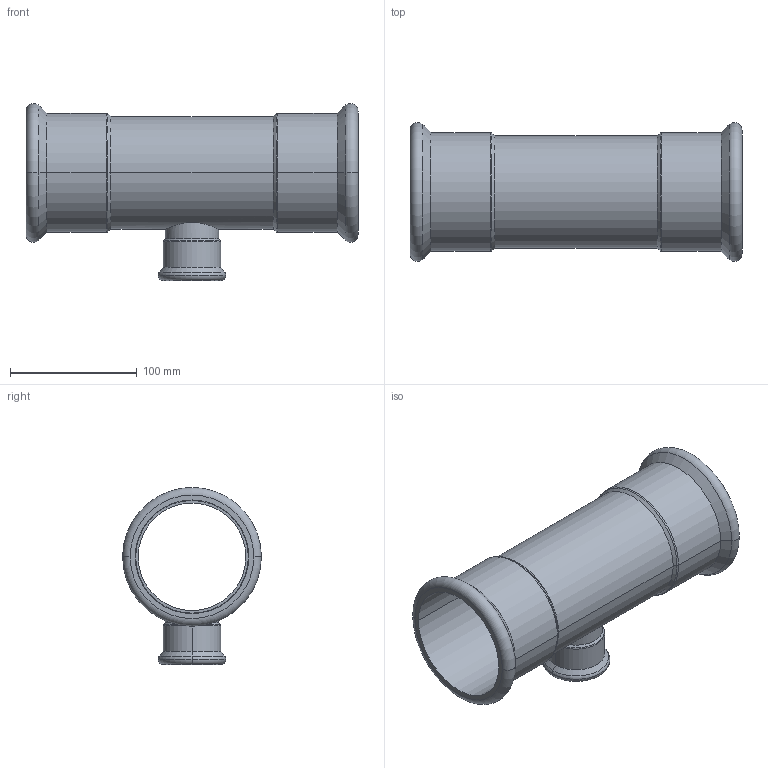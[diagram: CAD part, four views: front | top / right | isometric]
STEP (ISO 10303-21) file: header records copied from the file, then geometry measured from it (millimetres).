
FILE_DESCRIPTION(('CoCreate Modeling STEP Export'),'2;1');
FILE_NAME('C1415 88.9x42x88.9.stp','2014-11-12T10:53:43',(''),(''),'CoCreate Modeling STEP processor for AP214 (Solid Model)','CoCreate Modeling 17.00A 17-Jun-2010 (C) Parametric Technology GmbH','');
FILE_SCHEMA(('AUTOMOTIVE_DESIGN { 1 0 10303 214 1 1 1 1 }'));
Length unit declared in the file: millimetre
Products named in the file (2): C1415_89x42x89
Assembly tree (1 placements, depth 2):
  C1415_89x42x89
    C1415_89x42x89
Bounding box: 262 x 109.48 x 139.74 mm (x, y, z)
Volume: 220200.6 mm3; surface area: 169580.7 mm2
Topology: 1 solids, 1 shells, 62 faces, 127 edges, 75 vertices
Faces by surface type: cylinder 27, torus 14, cone 12, plane 9
Entity records: 2581 total; most frequent: CARTESIAN_POINT 1414, ORIENTED_EDGE 254, DIRECTION 208, EDGE_CURVE 127, AXIS2_PLACEMENT_3D 85, VERTEX_POINT 75, EDGE_LOOP 72, FACE_OUTER_BOUND 62
